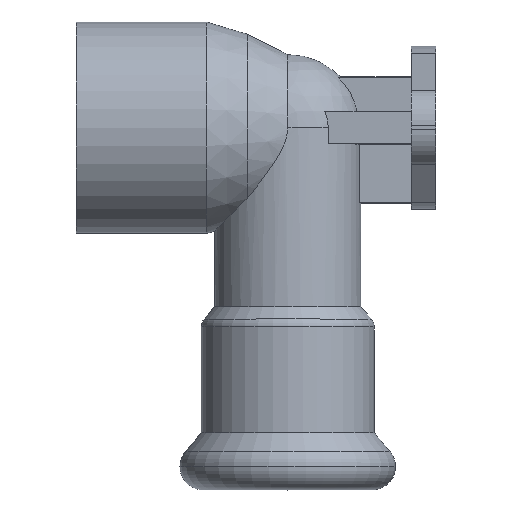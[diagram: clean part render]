
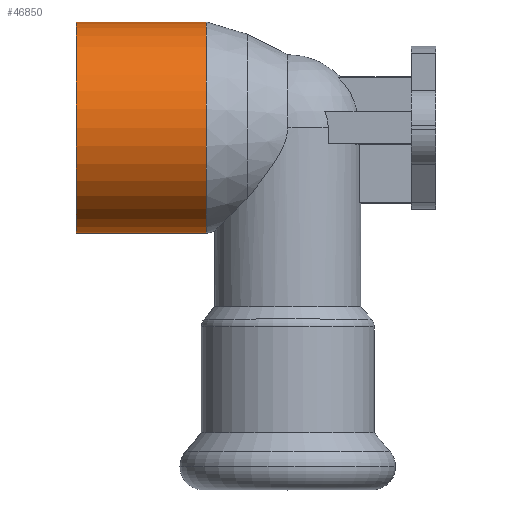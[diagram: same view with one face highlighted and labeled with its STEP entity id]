
A CAD part, top view. The second image highlights one B-rep face of the part: STEP entity #46850.
In plain terms, the highlighted cylindrical face has radius 13 mm (diameter 26 mm), a partial arc.
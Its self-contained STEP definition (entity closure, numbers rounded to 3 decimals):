
#18650=CARTESIAN_POINT('',(-192.976,7.621,0.));
#18660=VERTEX_POINT('',#18650);
#19710=CARTESIAN_POINT('',(-192.976,33.621,
0.));
#19720=VERTEX_POINT('',#19710);
#19750=CARTESIAN_POINT('',(-192.976,20.621,0.));
#19760=DIRECTION('',(1.,0.,0.));
#19770=DIRECTION('',(0.,-1.,0.));
#19780=AXIS2_PLACEMENT_3D('',#19750,#19760,#19770);
#19790=CIRCLE('',#19780,13.);
#19800=EDGE_CURVE('',#19720,#18660,#19790,.T.);
#19850=CARTESIAN_POINT('',(-192.976,20.621,0.));
#19860=DIRECTION('',(-1.,0.,0.));
#19870=DIRECTION('',(0.,-1.,0.));
#19880=AXIS2_PLACEMENT_3D('',#19850,#19860,#19870);
#19890=CYLINDRICAL_SURFACE('',#19880,13.);
#19900=CARTESIAN_POINT('',(-192.976,33.621,
0.));
#19910=DIRECTION('',(-1.,0.,0.));
#19920=VECTOR('',#19910,1.);
#19930=LINE('',#19900,#19920);
#19940=CARTESIAN_POINT('',(-176.976,33.621,
0.));
#19950=VERTEX_POINT('',#19940);
#19960=EDGE_CURVE('',#19950,#19720,#19930,.T.);
#20000=CARTESIAN_POINT('',(-192.976,7.621,0.));
#20010=DIRECTION('',(-1.,0.,0.));
#20020=VECTOR('',#20010,1.);
#20030=LINE('',#20000,#20020);
#20040=CARTESIAN_POINT('',(-176.976,7.621,0.));
#20050=VERTEX_POINT('',#20040);
#20060=EDGE_CURVE('',#20050,#18660,#20030,.T.);
#20080=CARTESIAN_POINT('',(-176.976,20.621,0.));
#20090=DIRECTION('',(-1.,0.,0.));
#20100=DIRECTION('',(0.,-1.,0.));
#20110=AXIS2_PLACEMENT_3D('',#20080,#20090,#20100);
#20120=CIRCLE('',#20110,13.);
#20380=EDGE_CURVE('',#20050,#19950,#20120,.T.);
#46790=ORIENTED_EDGE('',*,*,#19960,.T.);
#46800=ORIENTED_EDGE('',*,*,#20380,.T.);
#46810=ORIENTED_EDGE('',*,*,#20060,.F.);
#46820=ORIENTED_EDGE('',*,*,#19800,.T.);
#46830=EDGE_LOOP('',(#46820,#46810,#46800,#46790));
#46840=FACE_OUTER_BOUND('',#46830,.T.);
#46850=ADVANCED_FACE('',(#46840),#19890,.T.);
